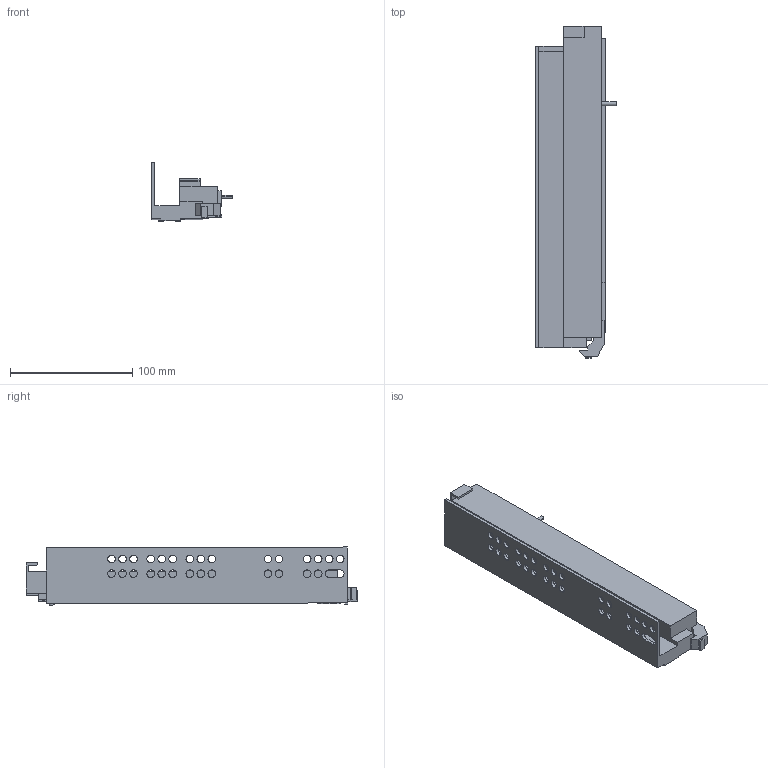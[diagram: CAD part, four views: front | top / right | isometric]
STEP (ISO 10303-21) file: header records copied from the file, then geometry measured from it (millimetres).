
FILE_DESCRIPTION (( 'STEP AP203' ), '1' );
FILE_NAME ('IMOS_Dynapro_Tipmatic_D51_NL_0_LI.STEP', '2013-03-22T12:18:57', ( 'Grass GmbH' ), ( 'Grass GmbH' ), 'SwSTEP 2.0', 'SolidWorks 2012', '' );
FILE_SCHEMA (( 'CONFIG_CONTROL_DESIGN' ));
Length unit declared in the file: millimetre
Products named in the file (1): IMOS_Dynapro_Tipmatic_D51_NL_0_LI
Bounding box: 65.92 x 271.55 x 47.46 mm (x, y, z)
Volume: 282649.6 mm3; surface area: 68230.9 mm2
Topology: 1 solids, 1 shells, 162 faces, 464 edges, 309 vertices
Faces by surface type: plane 97, cylinder 65
Entity records: 5503 total; most frequent: CARTESIAN_POINT 936, ORIENTED_EDGE 928, DIRECTION 920, EDGE_CURVE 464, LINE 334, VECTOR 334, VERTEX_POINT 309, AXIS2_PLACEMENT_3D 293
